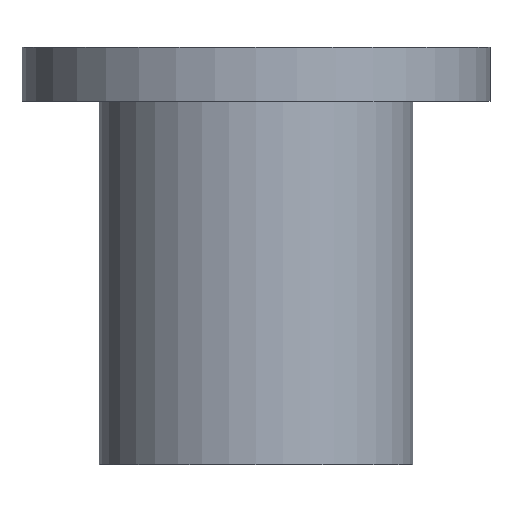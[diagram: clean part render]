
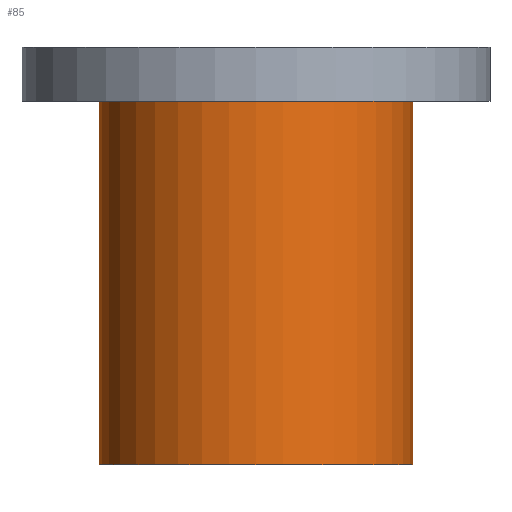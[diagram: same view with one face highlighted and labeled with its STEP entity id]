
A CAD part, front view. The second image highlights one B-rep face of the part: STEP entity #85.
In plain terms, the highlighted cylindrical face has radius 37.5 mm (diameter 75 mm), a partial arc.
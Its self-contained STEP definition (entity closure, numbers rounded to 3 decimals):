
#44=CARTESIAN_POINT('',(0.0,0.0,0.0));
#45=DIRECTION('',(0.0,0.0,1.0));
#46=DIRECTION('',(-1.0,0.0,0.0));
#47=AXIS2_PLACEMENT_3D('',#44,#45,#46);
#48=CYLINDRICAL_SURFACE('',#47,37.5);
#49=CARTESIAN_POINT('',(-37.5,0.,-50.0));
#50=VERTEX_POINT('',#49);
#51=CARTESIAN_POINT('',(-37.5,0.,37.0));
#52=VERTEX_POINT('',#51);
#53=CARTESIAN_POINT('',(-37.5,0.,-50.0));
#54=DIRECTION('',(0.0,0.0,1.0));
#55=VECTOR('',#54,87.0);
#56=LINE('',#53,#55);
#57=EDGE_CURVE('',#50,#52,#56,.T.);
#58=ORIENTED_EDGE('',*,*,#57,.F.);
#59=CARTESIAN_POINT('',(37.5,0.,-50.0));
#60=VERTEX_POINT('',#59);
#61=CARTESIAN_POINT('',(0.0,0.0,-50.0));
#62=DIRECTION('',(0.0,0.0,1.0));
#63=DIRECTION('',(-1.0,0.0,0.0));
#64=AXIS2_PLACEMENT_3D('',#61,#62,#63);
#65=CIRCLE('',#64,37.5);
#66=EDGE_CURVE('',#50,#60,#65,.T.);
#67=ORIENTED_EDGE('',*,*,#66,.T.);
#68=CARTESIAN_POINT('',(37.5,0.,37.0));
#69=VERTEX_POINT('',#68);
#70=CARTESIAN_POINT('',(37.5,0.,37.0));
#71=DIRECTION('',(0.0,0.0,-1.0));
#72=VECTOR('',#71,87.0);
#73=LINE('',#70,#72);
#74=EDGE_CURVE('',#69,#60,#73,.T.);
#75=ORIENTED_EDGE('',*,*,#74,.F.);
#76=CARTESIAN_POINT('',(0.0,0.0,37.0));
#77=DIRECTION('',(0.0,0.0,-1.0));
#78=DIRECTION('',(-1.0,0.0,0.0));
#79=AXIS2_PLACEMENT_3D('',#76,#77,#78);
#80=CIRCLE('',#79,37.5);
#81=EDGE_CURVE('',#69,#52,#80,.T.);
#82=ORIENTED_EDGE('',*,*,#81,.T.);
#83=EDGE_LOOP('',(#58,#67,#75,#82));
#84=FACE_OUTER_BOUND('',#83,.T.);
#85=ADVANCED_FACE('',(#84),#48,.T.);
